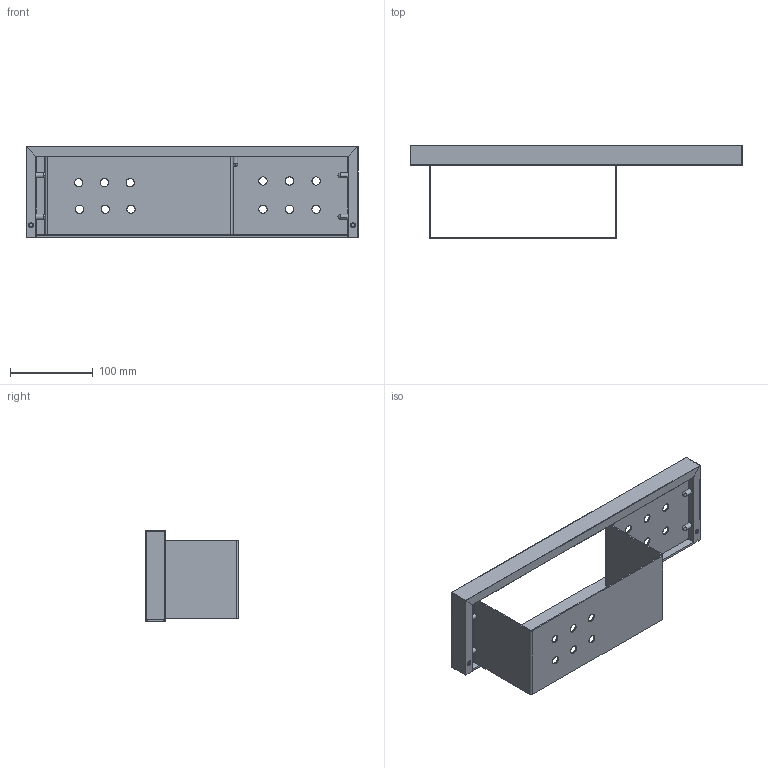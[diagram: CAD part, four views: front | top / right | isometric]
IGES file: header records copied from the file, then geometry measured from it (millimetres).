
Start section: SolidWorks IGES file using analytic representation for surfaces
Global section: file name: G:\Projects\New project\For Marketing\IGS\IGS\2015-12-11\496020002VW.IGS; native system: SolidWorks 2010; preprocessor: SolidWorks 2010; author: linda; date: 151210.154101; units: millimetre
Bounding box: 400 x 112.6 x 110 mm (x, y, z)
Surface area: 182190.1 mm2 (no closed solid volume)
Topology: 0 solids, 0 shells, 156 faces, 2586 edges, 2576 vertices
Faces by surface type: revolution 96, bspline 60
